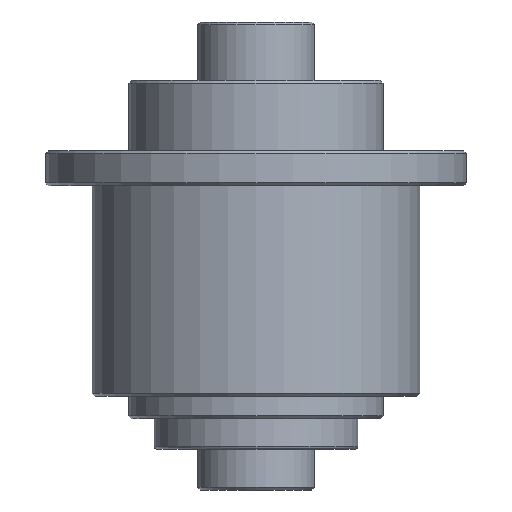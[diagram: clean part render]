
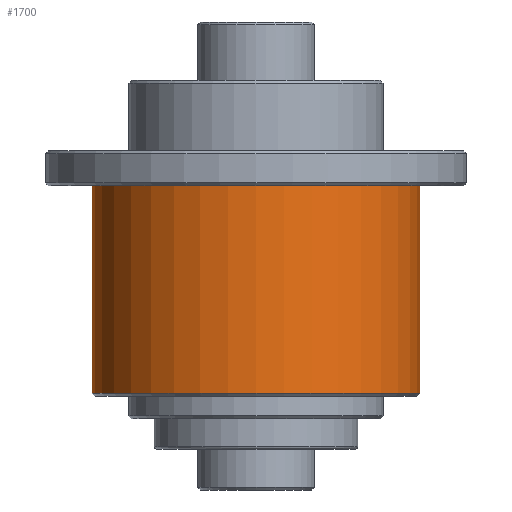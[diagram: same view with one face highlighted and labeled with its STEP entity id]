
A CAD part, front view. The second image highlights one B-rep face of the part: STEP entity #1700.
In plain terms, the highlighted cylindrical face has radius 28 mm (diameter 56 mm), a partial arc.
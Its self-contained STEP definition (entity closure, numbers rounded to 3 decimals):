
#24 = DIRECTION ( 'NONE',  ( 0., 0., 1. ) ) ;
#46 = CIRCLE ( 'NONE', #1113, 28. ) ;
#205 = CIRCLE ( 'NONE', #1131, 28. ) ;
#244 = VECTOR ( 'NONE', #2193, 1000. ) ;
#285 = AXIS2_PLACEMENT_3D ( 'NONE', #959, #1197, #2729 ) ;
#352 = CARTESIAN_POINT ( 'NONE',  ( -28., 0., 4. ) ) ;
#363 = CARTESIAN_POINT ( 'NONE',  ( 28., 0., 4. ) ) ;
#396 = ORIENTED_EDGE ( 'NONE', *, *, #1147, .F. ) ;
#441 = EDGE_LOOP ( 'NONE', ( #396, #2422, #489, #1826 ) ) ;
#489 = ORIENTED_EDGE ( 'NONE', *, *, #1167, .T. ) ;
#610 = CARTESIAN_POINT ( 'NONE',  ( 28., 0., -53.5 ) ) ;
#618 = CYLINDRICAL_SURFACE ( 'NONE', #285, 28. ) ;
#787 = CARTESIAN_POINT ( 'NONE',  ( 0., 0., -53.5 ) ) ;
#902 = VERTEX_POINT ( 'NONE', #916 ) ;
#912 = LINE ( 'NONE', #363, #244 ) ;
#916 = CARTESIAN_POINT ( 'NONE',  ( 28., 0., -18. ) ) ;
#959 = CARTESIAN_POINT ( 'NONE',  ( 0., 0., 4. ) ) ;
#1012 = DIRECTION ( 'NONE',  ( 1., 0., 0. ) ) ;
#1113 = AXIS2_PLACEMENT_3D ( 'NONE', #1516, #24, #1776 ) ;
#1131 = AXIS2_PLACEMENT_3D ( 'NONE', #787, #2550, #1012 ) ;
#1147 = EDGE_CURVE ( 'NONE', #2759, #1258, #1640, .T. ) ;
#1167 = EDGE_CURVE ( 'NONE', #1549, #902, #912, .T. ) ;
#1197 = DIRECTION ( 'NONE',  ( 0., 0., 1. ) ) ;
#1258 = VERTEX_POINT ( 'NONE', #1374 ) ;
#1374 = CARTESIAN_POINT ( 'NONE',  ( -28., 0., -18. ) ) ;
#1431 = EDGE_CURVE ( 'NONE', #2759, #1549, #205, .T. ) ;
#1443 = EDGE_CURVE ( 'NONE', #1258, #902, #46, .T. ) ;
#1516 = CARTESIAN_POINT ( 'NONE',  ( 0., 0., -18. ) ) ;
#1549 = VERTEX_POINT ( 'NONE', #610 ) ;
#1640 = LINE ( 'NONE', #352, #2415 ) ;
#1700 = ADVANCED_FACE ( 'NONE', ( #1955 ), #618, .T. ) ;
#1776 = DIRECTION ( 'NONE',  ( 1., 0., 0. ) ) ;
#1826 = ORIENTED_EDGE ( 'NONE', *, *, #1443, .F. ) ;
#1955 = FACE_OUTER_BOUND ( 'NONE', #441, .T. ) ;
#2127 = DIRECTION ( 'NONE',  ( 0., 0., 1. ) ) ;
#2193 = DIRECTION ( 'NONE',  ( 0., 0., 1. ) ) ;
#2415 = VECTOR ( 'NONE', #2127, 1000. ) ;
#2422 = ORIENTED_EDGE ( 'NONE', *, *, #1431, .T. ) ;
#2550 = DIRECTION ( 'NONE',  ( 0., 0., 1. ) ) ;
#2729 = DIRECTION ( 'NONE',  ( 1., 0., 0. ) ) ;
#2759 = VERTEX_POINT ( 'NONE', #3044 ) ;
#3044 = CARTESIAN_POINT ( 'NONE',  ( -28., 0., -53.5 ) ) ;
